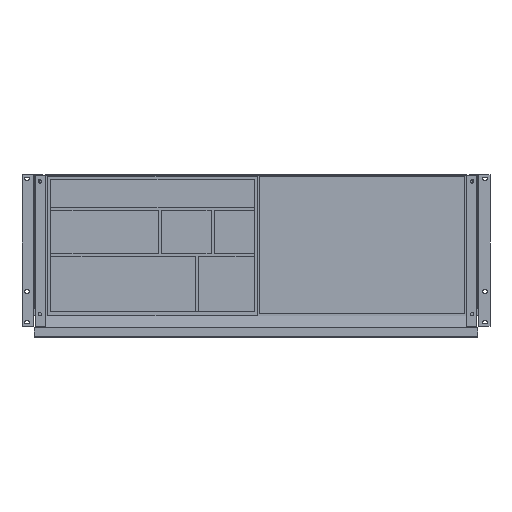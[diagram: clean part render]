
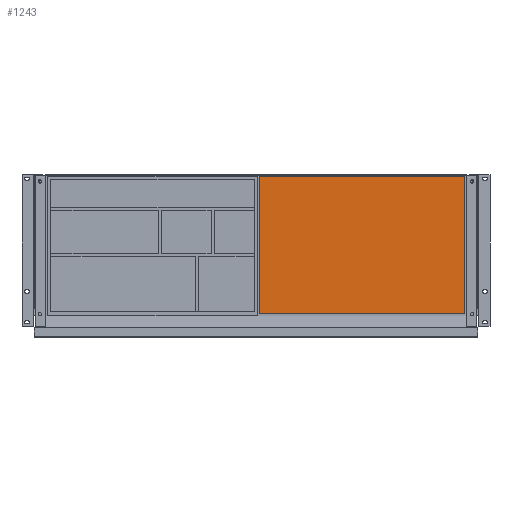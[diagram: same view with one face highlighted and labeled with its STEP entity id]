
A CAD part, top view. The second image highlights one B-rep face of the part: STEP entity #1243.
In plain terms, the highlighted planar face has unit normal (0, 0, 1).
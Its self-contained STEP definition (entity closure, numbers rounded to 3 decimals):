
#1243 = ADVANCED_FACE( '', ( #2474 ), #2475, .T. );
#2474 = FACE_OUTER_BOUND( '', #3700, .T. );
#2475 = PLANE( '', #3701 );
#3700 = EDGE_LOOP( '', ( #6827, #6828, #6829, #6830 ) );
#3701 = AXIS2_PLACEMENT_3D( '', #6831, #6832, #6833 );
#6827 = ORIENTED_EDGE( '', *, *, #8020, .T. );
#6828 = ORIENTED_EDGE( '', *, *, #8546, .T. );
#6829 = ORIENTED_EDGE( '', *, *, #7565, .T. );
#6830 = ORIENTED_EDGE( '', *, *, #8548, .T. );
#6831 = CARTESIAN_POINT( '', ( 0., 0., -15.8 ) );
#6832 = DIRECTION( '', ( 0., 0., 1. ) );
#6833 = DIRECTION( '', ( 1., 0., 0. ) );
#7565 = EDGE_CURVE( '', #9137, #9135, #9138, .T. );
#8020 = EDGE_CURVE( '', #9863, #9861, #9864, .T. );
#8546 = EDGE_CURVE( '', #9861, #9137, #10544, .T. );
#8548 = EDGE_CURVE( '', #9135, #9863, #10546, .T. );
#9135 = VERTEX_POINT( '', #11335 );
#9137 = VERTEX_POINT( '', #11338 );
#9138 = LINE( '', #11339, #11340 );
#9861 = VERTEX_POINT( '', #12362 );
#9863 = VERTEX_POINT( '', #12365 );
#9864 = LINE( '', #12366, #12367 );
#10544 = LINE( '', #13335, #13336 );
#10546 = LINE( '', #13338, #13339 );
#11335 = CARTESIAN_POINT( '', ( 700.8, -50.625, -15.8 ) );
#11338 = CARTESIAN_POINT( '', ( 366.8, -50.625, -15.8 ) );
#11339 = CARTESIAN_POINT( '', ( 366.8, -50.625, -15.8 ) );
#11340 = VECTOR( '', #13738, 1000. );
#12362 = CARTESIAN_POINT( '', ( 366.8, 172.375, -15.8 ) );
#12365 = CARTESIAN_POINT( '', ( 700.8, 172.375, -15.8 ) );
#12366 = CARTESIAN_POINT( '', ( 700.8, 172.375, -15.8 ) );
#12367 = VECTOR( '', #14225, 1000. );
#13335 = CARTESIAN_POINT( '', ( 366.8, 172.375, -15.8 ) );
#13336 = VECTOR( '', #14691, 1000. );
#13338 = CARTESIAN_POINT( '', ( 700.8, -50.625, -15.8 ) );
#13339 = VECTOR( '', #14692, 1000. );
#13738 = DIRECTION( '', ( 1., 0., 0. ) );
#14225 = DIRECTION( '', ( -1., 0., 0. ) );
#14691 = DIRECTION( '', ( 0., -1., 0. ) );
#14692 = DIRECTION( '', ( 0., 1., 0. ) );
